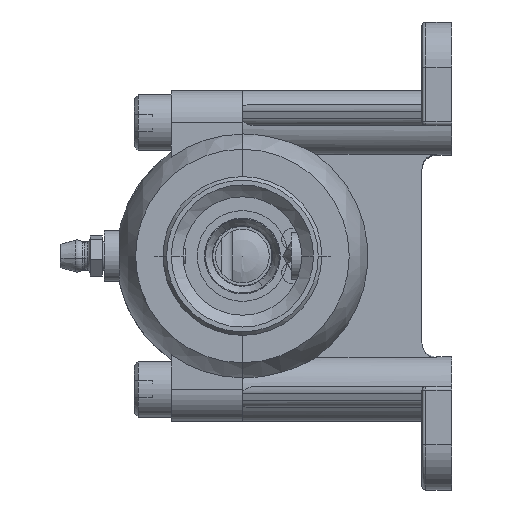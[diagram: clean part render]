
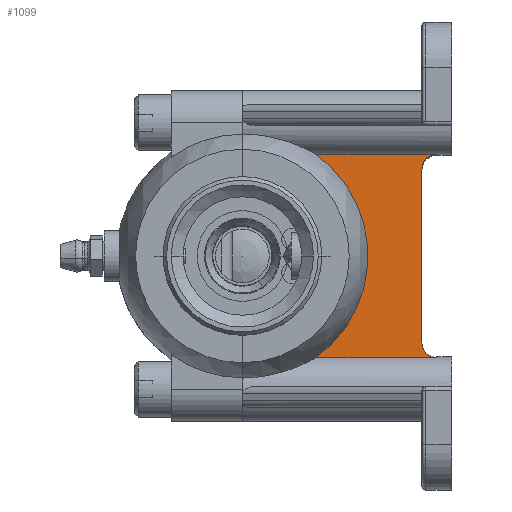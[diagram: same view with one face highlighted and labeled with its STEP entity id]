
A CAD part, left-side view. The second image highlights one B-rep face of the part: STEP entity #1099.
In plain terms, the highlighted planar face has unit normal (-1, 0, 0).
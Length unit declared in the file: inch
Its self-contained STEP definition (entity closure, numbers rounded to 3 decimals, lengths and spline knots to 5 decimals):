
#88 = VERTEX_POINT ( 'NONE', #14125 ) ;
#314 = EDGE_CURVE ( 'NONE', #19015, #88, #13516, .T. ) ;
#333 = VERTEX_POINT ( 'NONE', #10865 ) ;
#463 = VERTEX_POINT ( 'NONE', #12988 ) ;
#1099 = ADVANCED_FACE ( 'NONE', ( #1120 ), #21673, .T. ) ;
#1120 = FACE_OUTER_BOUND ( 'NONE', #15740, .T. ) ;
#1394 = ORIENTED_EDGE ( 'NONE', *, *, #2212, .F. ) ;
#1457 = EDGE_CURVE ( 'NONE', #12643, #333, #19175, .T. ) ;
#2212 = EDGE_CURVE ( 'NONE', #20742, #19015, #10655, .T. ) ;
#2225 = CARTESIAN_POINT ( 'NONE',  ( -0.075, 0.125, 0.86042 ) ) ;
#2604 = EDGE_CURVE ( 'NONE', #20742, #333, #9718, .T. ) ;
#3381 = ORIENTED_EDGE ( 'NONE', *, *, #314, .F. ) ;
#3439 = EDGE_CURVE ( 'NONE', #12643, #463, #5866, .T. ) ;
#3456 = CARTESIAN_POINT ( 'NONE',  ( -0.075, 4.30782, -0.86042 ) ) ;
#5002 = CARTESIAN_POINT ( 'NONE',  ( -0.075, 0.25, 1.125 ) ) ;
#5073 = DIRECTION ( 'NONE',  ( 0., 0., -1. ) ) ;
#5866 = B_SPLINE_CURVE_WITH_KNOTS ( 'NONE', 3,
 ( #16977, #17968, #19726, #19992, #20777, #21122, #21224, #21243, #21414, #21552, #21814, #22247, #22272, #22850, #8234, #2225 ),
 .UNSPECIFIED., .F., .F.,
 ( 4, 2, 2, 2, 2, 2, 2, 4 ),
 ( 0., 0.00063, 0.00126, 0.00188, 0.00251, 0.00314, 0.00377, 0.00502 ),
 .UNSPECIFIED. ) ;
#7109 = VECTOR ( 'NONE', #10815, 39.37008 ) ;
#8234 = CARTESIAN_POINT ( 'NONE',  ( -0.075, 0.14173, 0.86042 ) ) ;
#8761 = CARTESIAN_POINT ( 'NONE',  ( -0.075, 0.125, -0.86042 ) ) ;
#9718 = B_SPLINE_CURVE_WITH_KNOTS ( 'NONE', 3,
 ( #21446, #21089, #20582, #20535, #20506, #20462, #20432, #20356, #20312, #20292, #20244, #20091, #20060, #20021, #19963, #19906 ),
 .UNSPECIFIED., .F., .F.,
 ( 4, 2, 2, 2, 2, 2, 2, 4 ),
 ( 0., 0.00063, 0.00126, 0.00188, 0.00251, 0.00377, 0.00439, 0.00502 ),
 .UNSPECIFIED. ) ;
#10655 = LINE ( 'NONE', #3456, #12334 ) ;
#10815 = DIRECTION ( 'NONE',  ( 0., -1., 0. ) ) ;
#10865 = CARTESIAN_POINT ( 'NONE',  ( -0.075, 0.25, -0.73209 ) ) ;
#11010 = CARTESIAN_POINT ( 'NONE',  ( -0.075, 1.765, 0. ) ) ;
#11066 = DIRECTION ( 'NONE',  ( -1., 0., 0. ) ) ;
#11070 = DIRECTION ( 'NONE',  ( 0., 0., 1. ) ) ;
#11136 = CARTESIAN_POINT ( 'NONE',  ( -0.075, 4.30782, 0.86042 ) ) ;
#12334 = VECTOR ( 'NONE', #22702, 39.37008 ) ;
#12415 = LINE ( 'NONE', #11136, #7109 ) ;
#12643 = VERTEX_POINT ( 'NONE', #14814 ) ;
#12988 = CARTESIAN_POINT ( 'NONE',  ( -0.075, 0.125, 0.86042 ) ) ;
#13516 = CIRCLE ( 'NONE', #13645, 1.05985 ) ;
#13645 = AXIS2_PLACEMENT_3D ( 'NONE', #11010, #11066, #11070 ) ;
#14125 = CARTESIAN_POINT ( 'NONE',  ( -0.075, 1.14617, 0.86042 ) ) ;
#14814 = CARTESIAN_POINT ( 'NONE',  ( -0.075, 0.25, 0.73209 ) ) ;
#15740 = EDGE_LOOP ( 'NONE', ( #1394, #20925, #18084, #18999, #17811, #3381 ) ) ;
#16295 = EDGE_CURVE ( 'NONE', #88, #463, #12415, .T. ) ;
#16977 = CARTESIAN_POINT ( 'NONE',  ( -0.075, 0.25, 0.73209 ) ) ;
#17811 = ORIENTED_EDGE ( 'NONE', *, *, #16295, .F. ) ;
#17968 = CARTESIAN_POINT ( 'NONE',  ( -0.075, 0.25, 0.74045 ) ) ;
#18084 = ORIENTED_EDGE ( 'NONE', *, *, #1457, .F. ) ;
#18999 = ORIENTED_EDGE ( 'NONE', *, *, #3439, .T. ) ;
#19015 = VERTEX_POINT ( 'NONE', #19766 ) ;
#19175 = LINE ( 'NONE', #5002, #19636 ) ;
#19636 = VECTOR ( 'NONE', #5073, 39.37008 ) ;
#19726 = CARTESIAN_POINT ( 'NONE',  ( -0.075, 0.2492, 0.74867 ) ) ;
#19766 = CARTESIAN_POINT ( 'NONE',  ( -0.075, 1.14617, -0.86042 ) ) ;
#19906 = CARTESIAN_POINT ( 'NONE',  ( -0.075, 0.25, -0.73209 ) ) ;
#19963 = CARTESIAN_POINT ( 'NONE',  ( -0.075, 0.25, -0.74045 ) ) ;
#19992 = CARTESIAN_POINT ( 'NONE',  ( -0.075, 0.24607, 0.76485 ) ) ;
#20021 = CARTESIAN_POINT ( 'NONE',  ( -0.075, 0.2492, -0.7487 ) ) ;
#20060 = CARTESIAN_POINT ( 'NONE',  ( -0.075, 0.24603, -0.76502 ) ) ;
#20091 = CARTESIAN_POINT ( 'NONE',  ( -0.075, 0.24365, -0.77305 ) ) ;
#20244 = CARTESIAN_POINT ( 'NONE',  ( -0.075, 0.23442, -0.79598 ) ) ;
#20292 = CARTESIAN_POINT ( 'NONE',  ( -0.075, 0.22523, -0.81024 ) ) ;
#20312 = CARTESIAN_POINT ( 'NONE',  ( -0.075, 0.20808, -0.82807 ) ) ;
#20356 = CARTESIAN_POINT ( 'NONE',  ( -0.075, 0.2017, -0.83353 ) ) ;
#20432 = CARTESIAN_POINT ( 'NONE',  ( -0.075, 0.18811, -0.84301 ) ) ;
#20462 = CARTESIAN_POINT ( 'NONE',  ( -0.075, 0.18091, -0.84704 ) ) ;
#20506 = CARTESIAN_POINT ( 'NONE',  ( -0.075, 0.16572, -0.85364 ) ) ;
#20535 = CARTESIAN_POINT ( 'NONE',  ( -0.075, 0.15771, -0.85619 ) ) ;
#20582 = CARTESIAN_POINT ( 'NONE',  ( -0.075, 0.14157, -0.85956 ) ) ;
#20742 = VERTEX_POINT ( 'NONE', #8761 ) ;
#20777 = CARTESIAN_POINT ( 'NONE',  ( -0.075, 0.24371, 0.77289 ) ) ;
#20925 = ORIENTED_EDGE ( 'NONE', *, *, #2604, .T. ) ;
#21089 = CARTESIAN_POINT ( 'NONE',  ( -0.075, 0.13336, -0.86042 ) ) ;
#21122 = CARTESIAN_POINT ( 'NONE',  ( -0.075, 0.23752, 0.7883 ) ) ;
#21224 = CARTESIAN_POINT ( 'NONE',  ( -0.075, 0.23373, 0.79562 ) ) ;
#21243 = CARTESIAN_POINT ( 'NONE',  ( -0.075, 0.22479, 0.8095 ) ) ;
#21414 = CARTESIAN_POINT ( 'NONE',  ( -0.075, 0.21957, 0.81611 ) ) ;
#21446 = CARTESIAN_POINT ( 'NONE',  ( -0.075, 0.125, -0.86042 ) ) ;
#21552 = CARTESIAN_POINT ( 'NONE',  ( -0.075, 0.20813, 0.82803 ) ) ;
#21673 = PLANE ( 'NONE',  #22185 ) ;
#21814 = CARTESIAN_POINT ( 'NONE',  ( -0.075, 0.20188, 0.83339 ) ) ;
#22185 = AXIS2_PLACEMENT_3D ( 'NONE', #22203, #22208, #22257 ) ;
#22203 = CARTESIAN_POINT ( 'NONE',  ( -0.075, 1.32, 1.125 ) ) ;
#22208 = DIRECTION ( 'NONE',  ( -1., 0., 0. ) ) ;
#22247 = CARTESIAN_POINT ( 'NONE',  ( -0.075, 0.1883, 0.8429 ) ) ;
#22257 = DIRECTION ( 'NONE',  ( 0., 0., 1. ) ) ;
#22272 = CARTESIAN_POINT ( 'NONE',  ( -0.075, 0.18097, 0.84701 ) ) ;
#22702 = DIRECTION ( 'NONE',  ( 0., 1., 0. ) ) ;
#22850 = CARTESIAN_POINT ( 'NONE',  ( -0.075, 0.1583, 0.85688 ) ) ;
